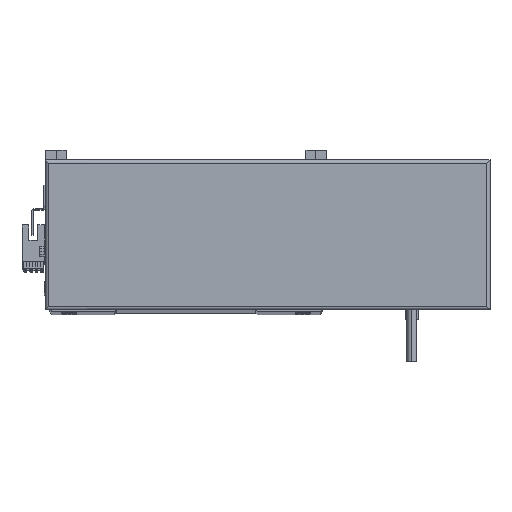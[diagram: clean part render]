
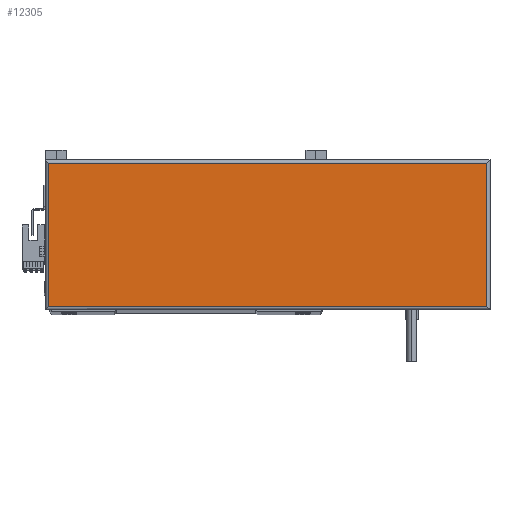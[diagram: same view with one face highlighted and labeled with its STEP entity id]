
A CAD part, top view. The second image highlights one B-rep face of the part: STEP entity #12305.
In plain terms, the highlighted planar face has unit normal (0, 0, 1).
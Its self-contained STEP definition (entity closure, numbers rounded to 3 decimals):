
#154 = VERTEX_POINT ( 'NONE', #26485 ) ;
#4593 = EDGE_CURVE ( 'NONE', #154, #6823, #9151, .T. ) ;
#4950 = CARTESIAN_POINT ( 'NONE',  ( 2., 88., 44.8 ) ) ;
#5468 = LINE ( 'NONE', #16239, #16803 ) ;
#6560 = DIRECTION ( 'NONE',  ( -1., 0., 0. ) ) ;
#6585 = ORIENTED_EDGE ( 'NONE', *, *, #38424, .T. ) ;
#6823 = VERTEX_POINT ( 'NONE', #40348 ) ;
#9151 = LINE ( 'NONE', #40255, #28921 ) ;
#9553 = DIRECTION ( 'NONE',  ( 1., 0., 0. ) ) ;
#11317 = VECTOR ( 'NONE', #22423, 1000. ) ;
#12305 = ADVANCED_FACE ( 'NONE', ( #14020 ), #16009, .T. ) ;
#13864 = EDGE_CURVE ( 'NONE', #35336, #154, #5468, .T. ) ;
#14020 = FACE_OUTER_BOUND ( 'NONE', #41624, .T. ) ;
#16009 = PLANE ( 'NONE',  #34914 ) ;
#16239 = CARTESIAN_POINT ( 'NONE',  ( 2., 0., 44.8 ) ) ;
#16803 = VECTOR ( 'NONE', #47159, 1000. ) ;
#19571 = DIRECTION ( 'NONE',  ( 1., 0., 0. ) ) ;
#20022 = ORIENTED_EDGE ( 'NONE', *, *, #30633, .T. ) ;
#22423 = DIRECTION ( 'NONE',  ( 0., 1., 0. ) ) ;
#25154 = VECTOR ( 'NONE', #6560, 1000. ) ;
#26485 = CARTESIAN_POINT ( 'NONE',  ( 2., 2., 44.8 ) ) ;
#28921 = VECTOR ( 'NONE', #9553, 1000. ) ;
#29484 = CARTESIAN_POINT ( 'NONE',  ( 0., 88., 44.8 ) ) ;
#30633 = EDGE_CURVE ( 'NONE', #49530, #35336, #45526, .T. ) ;
#30955 = ORIENTED_EDGE ( 'NONE', *, *, #13864, .T. ) ;
#31157 = CARTESIAN_POINT ( 'NONE',  ( 133.5, 45., 44.8 ) ) ;
#33688 = CARTESIAN_POINT ( 'NONE',  ( 265., 90., 44.8 ) ) ;
#34498 = ORIENTED_EDGE ( 'NONE', *, *, #4593, .T. ) ;
#34914 = AXIS2_PLACEMENT_3D ( 'NONE', #31157, #35018, #19571 ) ;
#35018 = DIRECTION ( 'NONE',  ( 0., 0., 1. ) ) ;
#35336 = VERTEX_POINT ( 'NONE', #4950 ) ;
#37688 = CARTESIAN_POINT ( 'NONE',  ( 265., 88., 44.8 ) ) ;
#38424 = EDGE_CURVE ( 'NONE', #6823, #49530, #47350, .T. ) ;
#40255 = CARTESIAN_POINT ( 'NONE',  ( 267., 2., 44.8 ) ) ;
#40348 = CARTESIAN_POINT ( 'NONE',  ( 265., 2., 44.8 ) ) ;
#41624 = EDGE_LOOP ( 'NONE', ( #6585, #20022, #30955, #34498 ) ) ;
#45526 = LINE ( 'NONE', #29484, #25154 ) ;
#47159 = DIRECTION ( 'NONE',  ( 0., -1., 0. ) ) ;
#47350 = LINE ( 'NONE', #33688, #11317 ) ;
#49530 = VERTEX_POINT ( 'NONE', #37688 ) ;
